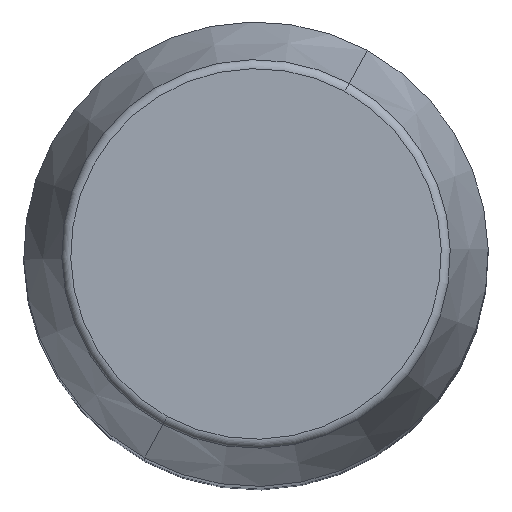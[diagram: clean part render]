
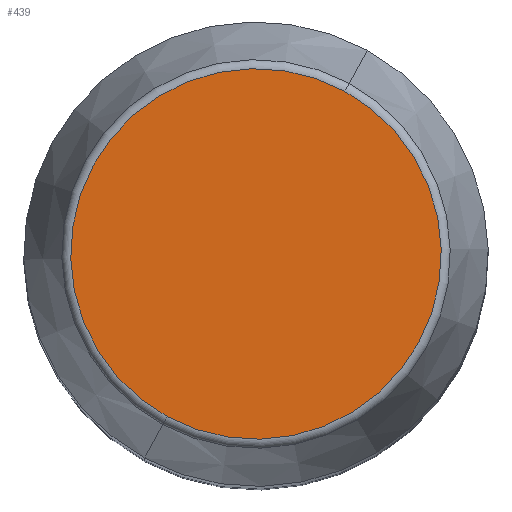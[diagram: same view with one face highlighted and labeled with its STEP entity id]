
A CAD part, top view. The second image highlights one B-rep face of the part: STEP entity #439.
In plain terms, the highlighted planar face has unit normal (0, 0, 1).
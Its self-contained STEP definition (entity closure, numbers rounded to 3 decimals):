
#391=CARTESIAN_POINT('Vertex',(-9.562,-17.504,250.)) ;
#394=CARTESIAN_POINT('Axis2P3D Location',(0.,0.,250.)) ;
#398=CARTESIAN_POINT('Vertex',(9.562,17.504,250.)) ;
#418=CARTESIAN_POINT('Axis2P3D Location',(0.,0.,250.)) ;
#430=CARTESIAN_POINT('Axis2P3D Location',(0.,19.945,250.)) ;
#395=DIRECTION('Axis2P3D Direction',(0.,0.,-1.)) ;
#419=DIRECTION('Axis2P3D Direction',(0.,0.,-1.)) ;
#431=DIRECTION('Axis2P3D Direction',(0.,0.,-1.)) ;
#432=DIRECTION('Axis2P3D XDirection',(1.,0.,0.)) ;
#396=AXIS2_PLACEMENT_3D('Circle Axis2P3D',#394,#395,$) ;
#420=AXIS2_PLACEMENT_3D('Circle Axis2P3D',#418,#419,$) ;
#433=AXIS2_PLACEMENT_3D('Plane Axis2P3D',#430,#431,#432) ;
#436=ORIENTED_EDGE('',*,*,#422,.F.) ;
#437=ORIENTED_EDGE('',*,*,#400,.F.) ;
#439=ADVANCED_FACE('PartBody',(#438),#434,.F.) ;
#397=CIRCLE('generated circle',#396,19.945) ;
#421=CIRCLE('generated circle',#420,19.945) ;
#400=EDGE_CURVE('',#392,#399,#397,.T.) ;
#422=EDGE_CURVE('',#399,#392,#421,.T.) ;
#435=EDGE_LOOP('',(#436,#437)) ;
#438=FACE_OUTER_BOUND('',#435,.T.) ;
#434=PLANE('Plane',#433) ;
#392=VERTEX_POINT('',#391) ;
#399=VERTEX_POINT('',#398) ;
